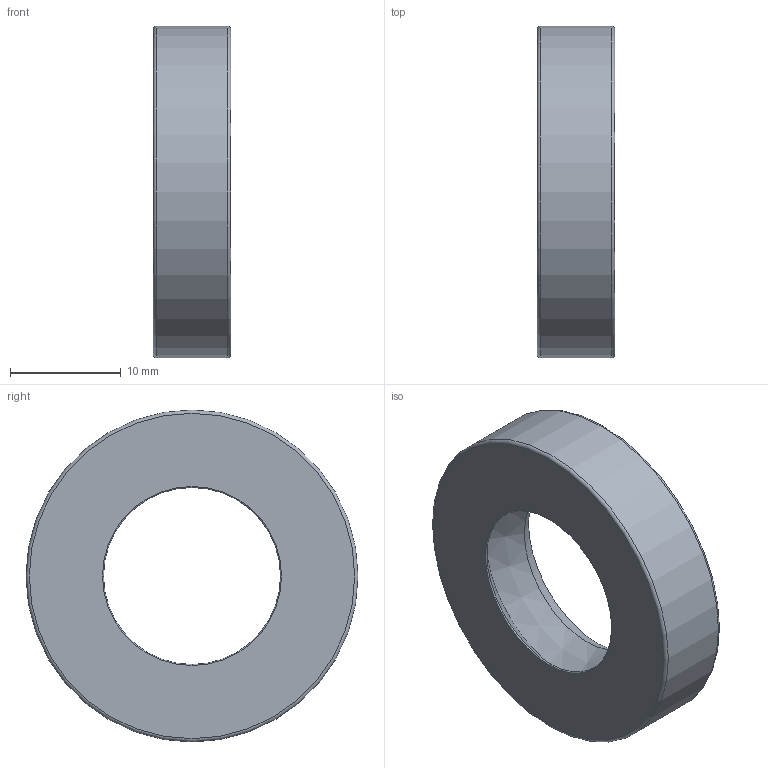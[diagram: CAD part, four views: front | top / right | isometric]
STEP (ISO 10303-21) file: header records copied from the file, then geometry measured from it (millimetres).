
FILE_DESCRIPTION(/* description */ ('오일-실'),/* implementation_level */ '2;1');
FILE_NAME(/* name */ '',/* time_stamp */ '2025-10-31T16:04:41+09:00',/* author */ ('jhkim'),/* organization */ (''),/* preprocessor_version */ 'ST-DEVELOPER v20.1',/* originating_system */ 'Autodesk Inventor 2026',/* authorisation */ '');
FILE_SCHEMA (('AUTOMOTIVE_DESIGN { 1 0 10303 214 3 1 1 }'));
Length unit declared in the file: millimetre
Products named in the file (1): 오일 실 16 30 7
Bounding box: 7 x 30 x 30 mm (x, y, z)
Volume: 2073.5 mm3; surface area: 2773.4 mm2
Topology: 1 solids, 1 shells, 16 faces, 34 edges, 22 vertices
Faces by surface type: torus 5, plane 4, cone 4, cylinder 3
Full cylindrical faces by diameter (mm): 20.2 x1, 26.5 x1, 30 x1
Entity records: 496 total; most frequent: DIRECTION 95, CARTESIAN_POINT 73, ORIENTED_EDGE 68, AXIS2_PLACEMENT_3D 44, EDGE_CURVE 34, CIRCLE 27, VERTEX_POINT 22, EDGE_LOOP 20
